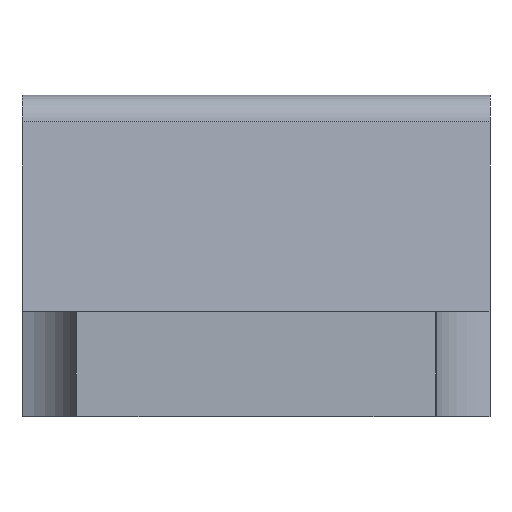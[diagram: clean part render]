
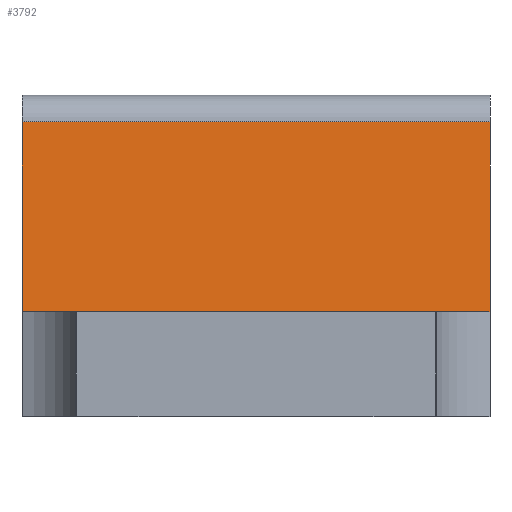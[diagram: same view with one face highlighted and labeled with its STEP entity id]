
A CAD part, left-side view. The second image highlights one B-rep face of the part: STEP entity #3792.
In plain terms, the highlighted planar face has unit normal (-0.996, 0, 0.087).
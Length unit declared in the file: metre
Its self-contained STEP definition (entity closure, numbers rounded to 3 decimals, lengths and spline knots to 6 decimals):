
#269=ORIENTED_EDGE('',*,*,#1351,.T.);
#270=ORIENTED_EDGE('',*,*,#1338,.F.);
#271=ORIENTED_EDGE('',*,*,#1352,.F.);
#272=ORIENTED_EDGE('',*,*,#1349,.T.);
#1338=EDGE_CURVE('',#1885,#1883,#2263,.T.);
#1349=EDGE_CURVE('',#1893,#1892,#2271,.T.);
#1351=EDGE_CURVE('',#1892,#1883,#2272,.T.);
#1352=EDGE_CURVE('',#1893,#1885,#2273,.T.);
#1883=VERTEX_POINT('',#5274);
#1885=VERTEX_POINT('',#5278);
#1892=VERTEX_POINT('',#5300);
#1893=VERTEX_POINT('',#5302);
#2263=LINE('',#5279,#2732);
#2271=LINE('',#5301,#2740);
#2272=LINE('',#5305,#2741);
#2273=LINE('',#5306,#2742);
#2732=VECTOR('',#4368,1.);
#2740=VECTOR('',#4390,1.);
#2741=VECTOR('',#4395,1.);
#2742=VECTOR('',#4396,1.);
#3191=EDGE_LOOP('',(#269,#270,#271,#272));
#3408=FACE_BOUND('',#3191,.T.);
#3623=PLANE('',#4114);
#3792=ADVANCED_FACE('',(#3408),#3623,.F.);
#4114=AXIS2_PLACEMENT_3D('',#5304,#4393,#4394);
#4368=DIRECTION('',(0.,1.,0.));
#4390=DIRECTION('',(0.,1.,0.));
#4393=DIRECTION('',(0.996,0.,-0.087));
#4394=DIRECTION('',(-0.087,0.,-0.996));
#4395=DIRECTION('',(-0.087,0.,-0.996));
#4396=DIRECTION('',(-0.087,0.,-0.996));
#5274=CARTESIAN_POINT('',(-0.00055,0.0004,0.00018));
#5278=CARTESIAN_POINT('',(-0.00055,-0.0004,0.00018));
#5279=CARTESIAN_POINT('',(-0.00055,-0.0004,0.00018));
#5300=CARTESIAN_POINT('',(-0.000522,0.0004,0.000504));
#5301=CARTESIAN_POINT('',(-0.000522,-0.0004,0.000504));
#5302=CARTESIAN_POINT('',(-0.000522,-0.0004,0.000504));
#5304=CARTESIAN_POINT('',(-0.000536,-0.0004,0.000342));
#5305=CARTESIAN_POINT('',(-0.000536,0.0004,0.000342));
#5306=CARTESIAN_POINT('',(-0.000536,-0.0004,0.000342));
